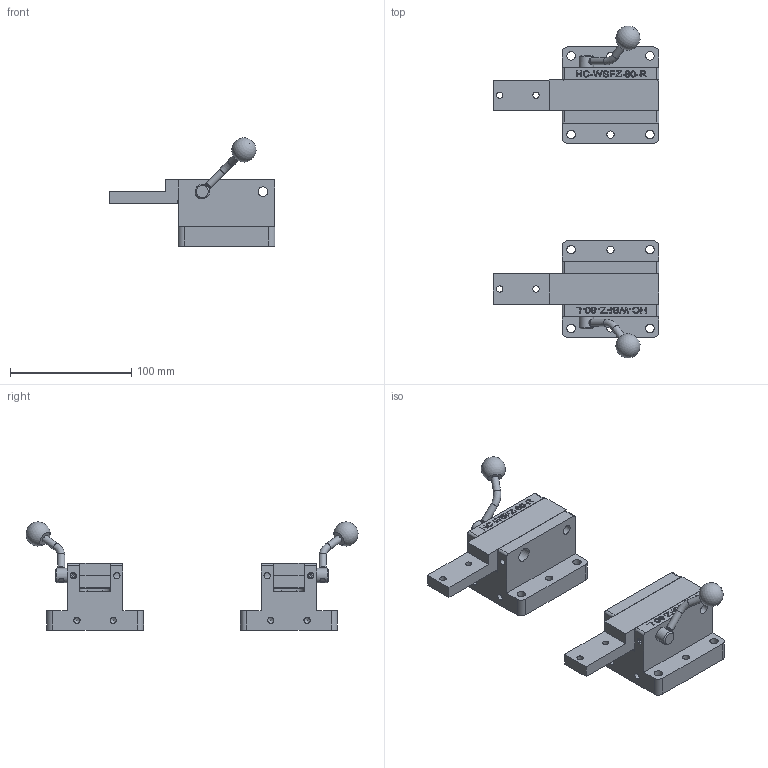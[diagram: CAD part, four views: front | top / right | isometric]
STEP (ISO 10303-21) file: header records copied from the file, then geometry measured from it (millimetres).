
FILE_DESCRIPTION(/* description */ (''),/* implementation_level */ '2;1');
FILE_NAME(/* name */ 'HC-WSFZ-80.stp',/* time_stamp */ '2018-06-27T12:14:09+08:00',/* author */ (''),/* organization */ (''),/* preprocessor_version */ 'ST-DEVELOPER v16',/* originating_system */ 'SIEMENS PLM Software NX 11.0',/* authorisation */ '');
FILE_SCHEMA (('AUTOMOTIVE_DESIGN { 1 0 10303 214 3 1 1 1 }'));
Length unit declared in the file: millimetre
Products named in the file (1): HC-WSFZ-80_stp
Bounding box: 137 x 274.07 x 89.32 mm (x, y, z)
Volume: 499168.3 mm3; surface area: 104789.5 mm2
Topology: 14 solids, 14 shells, 508 faces, 1261 edges, 832 vertices
Faces by surface type: plane 289, cylinder 110, extrusion 53, cone 30, bspline 16, sphere 8, torus 2
Full cylindrical faces by diameter (mm): 2.5 x4, 4.9 x2, 5 x6, 5.2 x18, 6 x16, 7 x8, 8 x4, 10 x2, 12 x8
Entity records: 18493 total; most frequent: CARTESIAN_POINT 5197, ORIENTED_EDGE 2210, DIRECTION 2160, EDGE_CURVE 1105, VERTEX_POINT 788, VECTOR 748, EDGE_LOOP 723, AXIS2_PLACEMENT_3D 706
